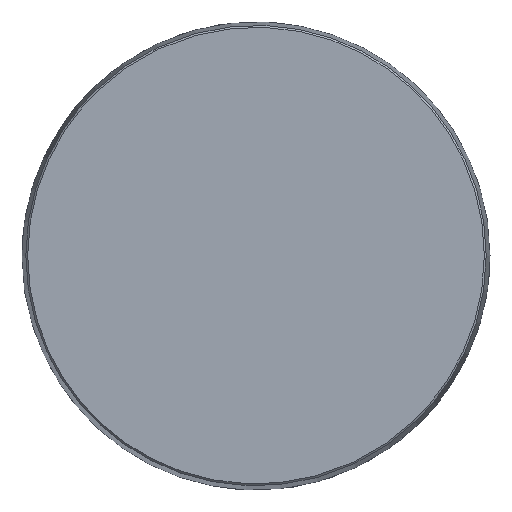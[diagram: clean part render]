
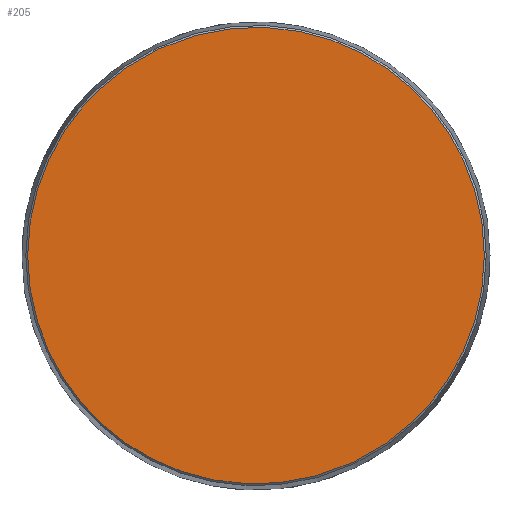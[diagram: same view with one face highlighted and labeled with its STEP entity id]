
A CAD part, top view. The second image highlights one B-rep face of the part: STEP entity #205.
In plain terms, the highlighted planar face has unit normal (0, 0, 1).
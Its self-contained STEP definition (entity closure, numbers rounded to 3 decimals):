
#205=ADVANCED_FACE('',(#282),#1203,.T.);
#282=FACE_OUTER_BOUND('',#363,.T.);
#363=EDGE_LOOP('',(#630,#631));
#630=ORIENTED_EDGE('',*,*,#852,.F.);
#631=ORIENTED_EDGE('',*,*,#841,.F.);
#841=EDGE_CURVE('',#1126,#1132,#970,.T.);
#852=EDGE_CURVE('',#1132,#1126,#976,.T.);
#970=(
BOUNDED_CURVE()
B_SPLINE_CURVE(2,(#2613,#2614,#2615,#2616,#2617),.UNSPECIFIED.,.F.,.F.)
B_SPLINE_CURVE_WITH_KNOTS((3,2,3),(97.315,194.63,291.945),
 .UNSPECIFIED.)
CURVE()
GEOMETRIC_REPRESENTATION_ITEM()
RATIONAL_B_SPLINE_CURVE((1.,0.707,1.,0.707,1.))
REPRESENTATION_ITEM('')
);
#976=(
BOUNDED_CURVE()
B_SPLINE_CURVE(2,(#2653,#2654,#2655,#2656,#2657),.UNSPECIFIED.,.F.,.F.)
B_SPLINE_CURVE_WITH_KNOTS((3,2,3),(291.945,389.26,486.575),
 .UNSPECIFIED.)
CURVE()
GEOMETRIC_REPRESENTATION_ITEM()
RATIONAL_B_SPLINE_CURVE((1.,0.707,1.,0.707,1.))
REPRESENTATION_ITEM('')
);
#1126=VERTEX_POINT('',#2553);
#1132=VERTEX_POINT('',#2559);
#1203=PLANE('',#1422);
#1422=AXIS2_PLACEMENT_3D('',#2473,#1463,$);
#1463=DIRECTION('',(0.,0.,1.));
#2473=CARTESIAN_POINT('',(-109.829,-1.357,34.455));
#2553=CARTESIAN_POINT('',(-47.529,41.304,34.455));
#2559=CARTESIAN_POINT('',(38.449,-47.917,34.455));
#2613=CARTESIAN_POINT('',(-47.529,41.304,34.455));
#2614=CARTESIAN_POINT('',(-2.918,84.293,34.455));
#2615=CARTESIAN_POINT('',(40.071,39.683,34.455));
#2616=CARTESIAN_POINT('',(83.059,-4.928,34.455));
#2617=CARTESIAN_POINT('',(38.449,-47.917,34.455));
#2653=CARTESIAN_POINT('',(38.449,-47.917,34.455));
#2654=CARTESIAN_POINT('',(-6.161,-90.905,34.455));
#2655=CARTESIAN_POINT('',(-49.15,-46.295,34.455));
#2656=CARTESIAN_POINT('',(-92.139,-1.684,34.455));
#2657=CARTESIAN_POINT('',(-47.529,41.304,34.455));
